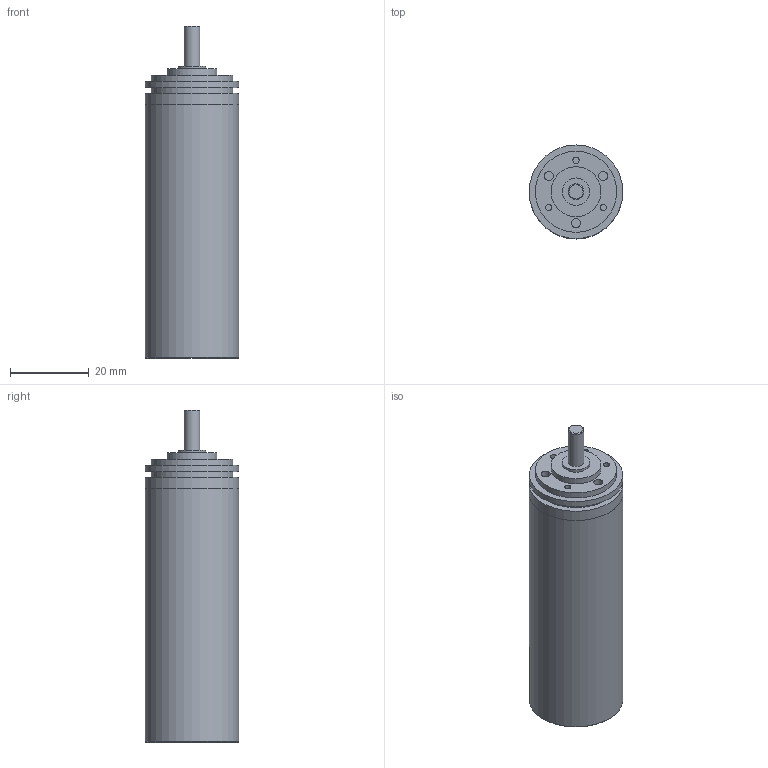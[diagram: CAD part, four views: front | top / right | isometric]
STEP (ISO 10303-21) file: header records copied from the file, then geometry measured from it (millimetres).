
FILE_DESCRIPTION(/* description */ (''),/* implementation_level */ '2;1');
FILE_NAME(/* name */ '22-2K_11.stp',/* time_stamp */ '2016-08-26T11:40:17+02:00',/* author */ ('DR. FRITZ FAULHABER GmbH & Co. KG'),/* organization */ ('DR. FRITZ FAULHABER GmbH & Co. KG'),/* preprocessor_version */ 'ST-DEVELOPER v16',/* originating_system */ 'SIEMENS PLM Software NX 10.0',/* authorisation */ '');
FILE_SCHEMA (('AUTOMOTIVE_DESIGN { 1 0 10303 214 3 1 1 1 }'));
Length unit declared in the file: millimetre
Products named in the file (1): H00000870_A
Bounding box: 23.8 x 23.8 x 84.4 mm (x, y, z)
Volume: 24087.5 mm3; surface area: 8337 mm2
Topology: 1 solids, 1 shells, 42 faces, 65 edges, 43 vertices
Faces by surface type: plane 20, cylinder 19, cone 3
Full cylindrical faces by diameter (mm): 1.6 x3, 2.329 x3, 3.5 x1, 4 x1, 4.5 x1, 7 x2, 12.7 x1, 20.63 x2, 22 x1, 23.79 x1, 23.8 x3
Entity records: 858 total; most frequent: DIRECTION 168, CARTESIAN_POINT 125, AXIS2_PLACEMENT_3D 84, EDGE_LOOP 82, ORIENTED_EDGE 82, FACE_BOUND 74, ADVANCED_FACE 42, VERTEX_POINT 41
